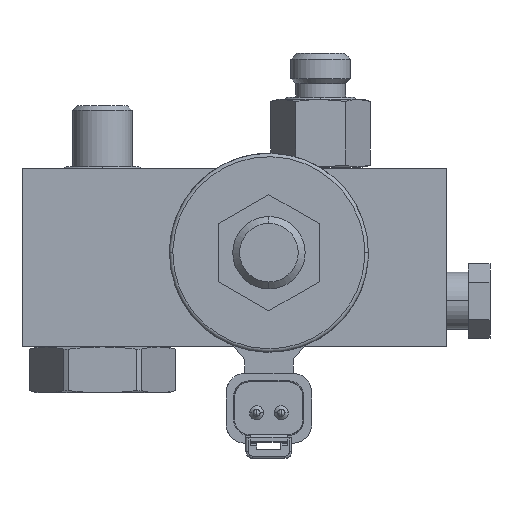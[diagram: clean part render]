
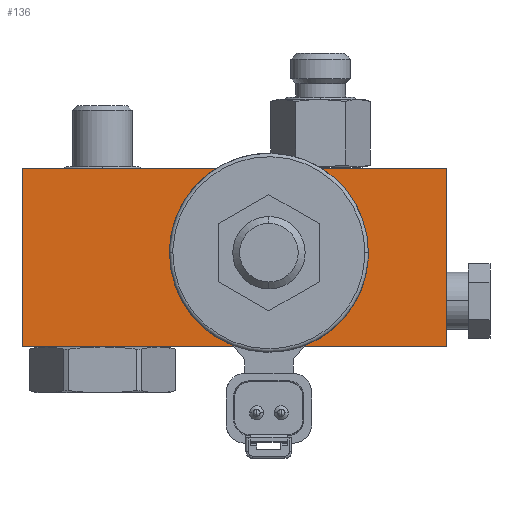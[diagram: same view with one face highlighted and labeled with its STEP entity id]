
A CAD part, front view. The second image highlights one B-rep face of the part: STEP entity #136.
In plain terms, the highlighted planar face has unit normal (0, -1, 0).
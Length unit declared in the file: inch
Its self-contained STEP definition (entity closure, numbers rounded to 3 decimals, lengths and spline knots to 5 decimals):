
#5=DIRECTION('',(0.,0.,1.));
#6=VECTOR('',#5,1.55);
#7=CARTESIAN_POINT('',(0.,0.,-1.55));
#8=LINE('',#7,#6);
#25=DIRECTION('',(-1.,0.,0.));
#26=VECTOR('',#25,3.7);
#27=CARTESIAN_POINT('',(3.7,0.,-1.55));
#28=LINE('',#27,#26);
#29=DIRECTION('',(-1.,0.,0.));
#30=VECTOR('',#29,3.7);
#31=CARTESIAN_POINT('',(3.7,0.,0.));
#32=LINE('',#31,#30);
#45=DIRECTION('',(0.,0.,1.));
#46=VECTOR('',#45,1.55);
#47=CARTESIAN_POINT('',(3.7,0.,-1.55));
#48=LINE('',#47,#46);
#49=CARTESIAN_POINT('',(0.,0.,0.));
#51=VERTEX_POINT('',#49);
#53=CARTESIAN_POINT('',(0.,0.,-1.55));
#54=VERTEX_POINT('',#53);
#57=CARTESIAN_POINT('',(3.7,0.,0.));
#59=VERTEX_POINT('',#57);
#61=CARTESIAN_POINT('',(3.7,0.,-1.55));
#62=VERTEX_POINT('',#61);
#124=CARTESIAN_POINT('',(0.,0.,0.));
#125=DIRECTION('',(0.,-1.,0.));
#126=DIRECTION('',(0.,0.,-1.));
#127=AXIS2_PLACEMENT_3D('',#124,#125,#126);
#128=PLANE('',#127);
#129=ORIENTED_EDGE('',*,*,#72,.T.);
#130=ORIENTED_EDGE('',*,*,#91,.F.);
#132=ORIENTED_EDGE('',*,*,#131,.F.);
#133=ORIENTED_EDGE('',*,*,#116,.T.);
#134=EDGE_LOOP('',(#129,#130,#132,#133));
#135=FACE_OUTER_BOUND('',#134,.F.);
#136=ADVANCED_FACE('',(#135),#128,.T.);
#72=EDGE_CURVE('',#54,#51,#8,.T.);
#91=EDGE_CURVE('',#59,#51,#32,.T.);
#116=EDGE_CURVE('',#62,#54,#28,.T.);
#131=EDGE_CURVE('',#62,#59,#48,.T.);
